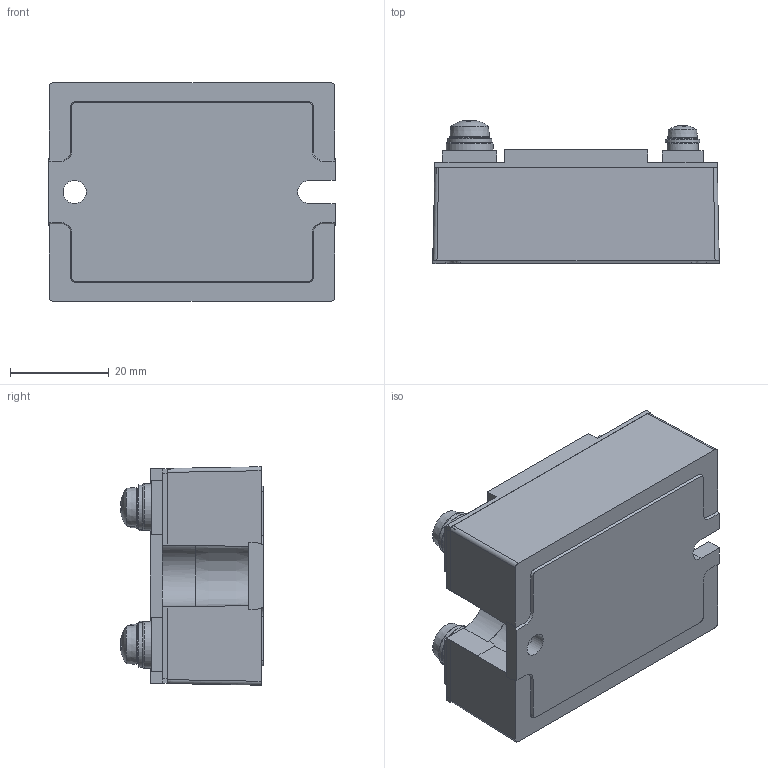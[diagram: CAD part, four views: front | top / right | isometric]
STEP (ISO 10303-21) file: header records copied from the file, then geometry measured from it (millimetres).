
FILE_DESCRIPTION(/* description */ (''),/* implementation_level */ '2;1');
FILE_NAME(/* name */ 'C:\Vault_local\Designs\Stock\20\00\SCC21506.stp',/* time_stamp */ '2014-09-19T11:38:11+02:00',/* author */ ('François BROS Adjoint reponsable méthode & industrialisation +33 (0)4 77 53 90 27 fbros@celduc.com'),/* organization */ ('Celduc® r e l a i s 5, rue Ampère, BP 30004 42290 SORBIERS - France Fax : +33 (0)4 77 53 85 51 N° siret 353 310 519 00015 ISO 9001 N° QUAL/1993/1106b www.celduc.com'),/* preprocessor_version */ 'ST-DEVELOPER v15.2',/* originating_system */ 'Autodesk Inventor 2014',/* authorisation */ '');
FILE_SCHEMA (('AUTOMOTIVE_DESIGN { 1 0 10303 214 3 1 1 }'));
Length unit declared in the file: millimetre
Products named in the file (1): SCC21506
Bounding box: 58.06 x 29 x 44.3 mm (x, y, z)
Volume: 51906.2 mm3; surface area: 11174.4 mm2
Topology: 1 solids, 6 shells, 518 faces, 1439 edges, 948 vertices
Faces by surface type: plane 314, cone 156, cylinder 40, sphere 4, torus 4
Full cylindrical faces by diameter (mm): 4.7 x1, 5.72 x4, 6.3 x2, 7 x2, 7.65 x4, 9 x2, 9.5 x2
Entity records: 16971 total; most frequent: CARTESIAN_POINT 3091, DIRECTION 2817, ORIENTED_EDGE 2772, EDGE_CURVE 1386, AXIS2_PLACEMENT_3D 948, VERTEX_POINT 930, LINE 921, VECTOR 921
